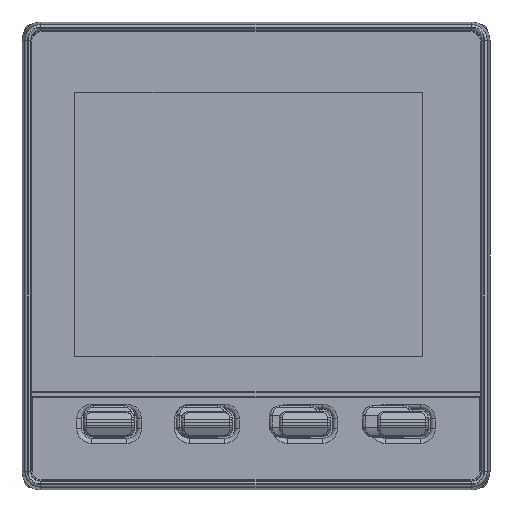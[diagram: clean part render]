
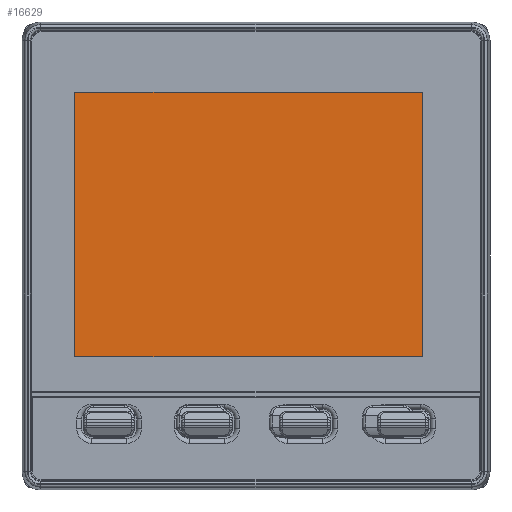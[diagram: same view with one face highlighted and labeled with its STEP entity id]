
A CAD part, top view. The second image highlights one B-rep face of the part: STEP entity #16629.
In plain terms, the highlighted planar face has unit normal (0, 0, 1).
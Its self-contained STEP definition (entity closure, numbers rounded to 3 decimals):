
#16366=DIRECTION('',(1.,0.,0.));
#16367=VECTOR('',#16366,35.5);
#16368=CARTESIAN_POINT('',(-18.5,16.7,0.9));
#16369=LINE('',#16368,#16367);
#16373=DIRECTION('',(0.,1.,0.));
#16374=VECTOR('',#16373,27.);
#16375=CARTESIAN_POINT('',(17.,-10.3,0.9));
#16376=LINE('',#16375,#16374);
#16380=DIRECTION('',(1.,0.,0.));
#16381=VECTOR('',#16380,35.5);
#16382=CARTESIAN_POINT('',(-18.5,-10.3,0.9));
#16383=LINE('',#16382,#16381);
#16387=DIRECTION('',(0.,-1.,0.));
#16388=VECTOR('',#16387,27.);
#16389=CARTESIAN_POINT('',(-18.5,16.7,0.9));
#16390=LINE('',#16389,#16388);
#16418=CARTESIAN_POINT('',(-18.5,16.7,0.9));
#16419=CARTESIAN_POINT('',(-18.5,-10.3,0.9));
#16420=VERTEX_POINT('',#16418);
#16421=VERTEX_POINT('',#16419);
#16422=CARTESIAN_POINT('',(17.,-10.3,0.9));
#16423=VERTEX_POINT('',#16422);
#16424=CARTESIAN_POINT('',(17.,16.7,0.9));
#16425=VERTEX_POINT('',#16424);
#16618=CARTESIAN_POINT('',(0.,0.,0.9));
#16619=DIRECTION('',(0.,0.,1.));
#16620=DIRECTION('',(1.,0.,0.));
#16621=AXIS2_PLACEMENT_3D('',#16618,#16619,#16620);
#16622=PLANE('',#16621);
#16623=ORIENTED_EDGE('',*,*,#16570,.T.);
#16624=ORIENTED_EDGE('',*,*,#16585,.F.);
#16625=ORIENTED_EDGE('',*,*,#16599,.F.);
#16626=ORIENTED_EDGE('',*,*,#16612,.F.);
#16627=EDGE_LOOP('',(#16623,#16624,#16625,#16626));
#16628=FACE_OUTER_BOUND('',#16627,.F.);
#16570=EDGE_CURVE('',#16420,#16425,#16369,.T.);
#16585=EDGE_CURVE('',#16423,#16425,#16376,.T.);
#16599=EDGE_CURVE('',#16421,#16423,#16383,.T.);
#16612=EDGE_CURVE('',#16420,#16421,#16390,.T.);
#16629=ADVANCED_FACE('',(#16628),#16622,.T.);
